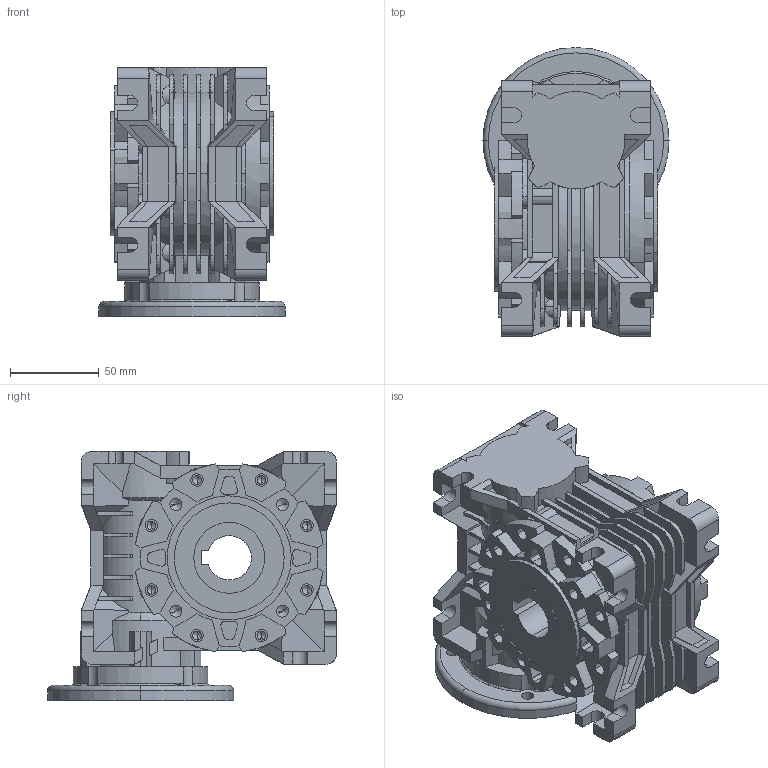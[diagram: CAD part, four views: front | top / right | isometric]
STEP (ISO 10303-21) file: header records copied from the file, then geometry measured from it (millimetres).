
FILE_DESCRIPTION (( 'STEP AP203' ), '1' );
FILE_NAME ('NMRV50-71B14.STEP', '2018-11-30T07:34:14', ( '微软中国' ), ( '微软中国' ), 'SwSTEP 2.0', 'SolidWorks 2016', '' );
FILE_SCHEMA (( 'CONFIG_CONTROL_DESIGN' ));
Length unit declared in the file: millimetre
Products named in the file (1): NMRV50-71B14
Bounding box: 105 x 163 x 140.5 mm (x, y, z)
Volume: 584453.7 mm3; surface area: 246668.7 mm2
Topology: 1 solids, 12 shells, 1396 faces, 3782 edges, 2428 vertices
Faces by surface type: plane 743, cylinder 584, cone 60, torus 9
Entity records: 44354 total; most frequent: CARTESIAN_POINT 8726, DIRECTION 7668, ORIENTED_EDGE 7488, EDGE_CURVE 3744, AXIS2_PLACEMENT_3D 2776, VERTEX_POINT 2428, VECTOR 2116, LINE 2116
